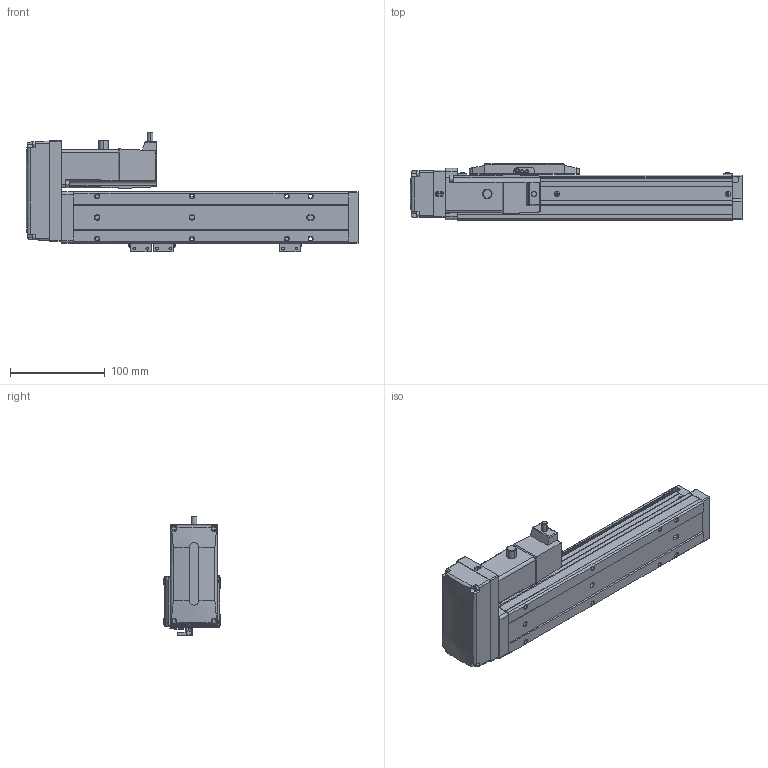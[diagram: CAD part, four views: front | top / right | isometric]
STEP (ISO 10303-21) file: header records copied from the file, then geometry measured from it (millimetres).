
FILE_DESCRIPTION (( 'STEP AP203' ), '1' );
FILE_NAME ('CTH5-L10-S150-BL-C10(¼ò).STEP', '2023-02-04T02:17:10', ( '' ), ( '' ), 'SwSTEP 2.0', 'SolidWorks 2018', '' );
FILE_SCHEMA (( 'CONFIG_CONTROL_DESIGN' ));
Length unit declared in the file: millimetre
Products named in the file (21): CTH嫖萇羲壽假蚾啣; CTH5菁釱-L290; CTH5ヶ耜啣(潠); CTH5耜晚蹟隊-1; M3｡｣; 葩璃 蚾饜极13^CTH8-L10-S50-BM-C40(潠)1; CTH5覜茼え; CTH5賑怢-2; PM-Y45; CTH5-L10-S150-BL-C10(潠); 嫖萇羲壽郪磁1; CTH100W假蚾啣; T10-p1; CTH5耜晚蹟隊; hex nuts, style 1-grades ab gb_GB_FASTENER_NUT_SNAB1 M3-N; CTH5-BL-T10_body5; CTH5耜蚾蟀諉啣(潠); 内六角圆柱头螺钉M3-2; 100W萇儂; CTH5耜蚾欶; CTH5綴耜啣
Assembly tree (35 placements, depth 3):
  CTH5-L10-S150-BL-C10(潠)
    CTH5綴耜啣
    CTH5賑怢-2
    CTH5ヶ耜啣(潠)
    CTH5菁釱-L290
    CTH5耜晚蹟隊  x2
    CTH5覜茼え
    CTH5耜晚蹟隊-1  x3
    CTH5耜蚾蟀諉啣(潠)
    CTH5耜蚾欶
      CTH5-BL-T10_body5
    100W萇儂
      T10-p1
    CTH100W假蚾啣
    葩璃 蚾饜极13^CTH8-L10-S50-BM-C40(潠)1  x2
      CTH嫖萇羲壽假蚾啣
      PM-Y45
      内六角圆柱头螺钉M3-2
      M3｡｣
      hex nuts, style 1-grades ab gb_GB_FASTENER_NUT_SNAB1 M3-N
    嫖萇羲壽郪磁1
      CTH嫖萇羲壽假蚾啣
      PM-Y45
      M3｡｣  x2
      内六角圆柱头螺钉M3-2  x2
      hex nuts, style 1-grades ab gb_GB_FASTENER_NUT_SNAB1 M3-N  x2
Bounding box: 350 x 60 x 126.31 mm (x, y, z)
Volume: 1041552.9 mm3; surface area: 175098.6 mm2
Topology: 38 solids, 38 shells, 1560 faces, 3907 edges, 2528 vertices
Faces by surface type: plane 881, cylinder 456, cone 167, torus 38, bspline 18
Entity records: 36120 total; most frequent: CARTESIAN_POINT 6709, DIRECTION 5689, ORIENTED_EDGE 5486, EDGE_CURVE 2743, AXIS2_PLACEMENT_3D 1943, LINE 1803, VECTOR 1803, VERTEX_POINT 1772
